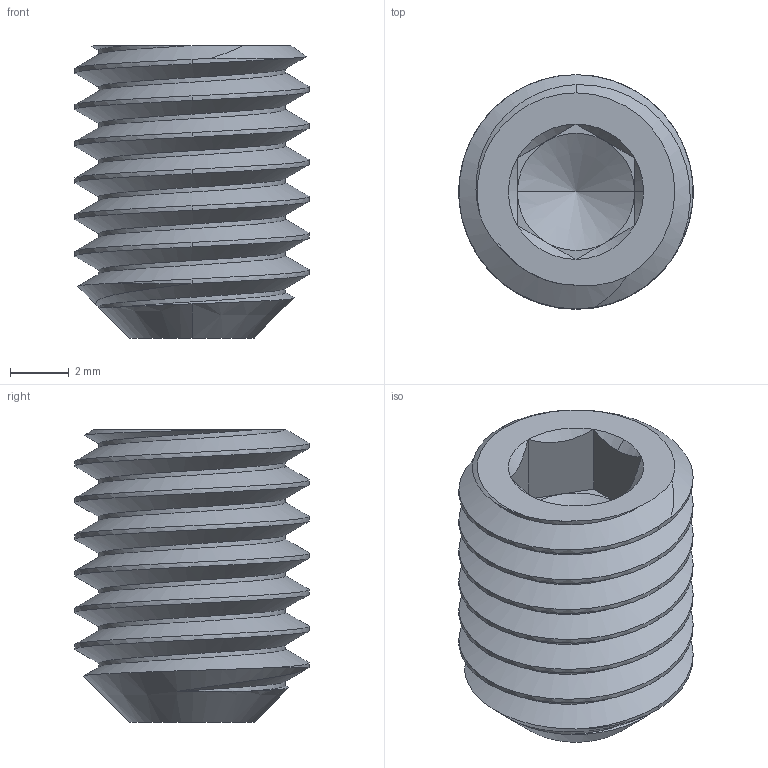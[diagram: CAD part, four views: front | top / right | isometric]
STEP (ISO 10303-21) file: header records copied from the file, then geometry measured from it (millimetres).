
FILE_DESCRIPTION (( 'STEP AP203' ), '1' );
FILE_NAME ('Cup-Point Set Screw 8x10.STEP', '2025-09-25T16:36:09', ( '' ), ( '' ), 'SwSTEP 2.0', 'SolidWorks 2024', '' );
FILE_SCHEMA (( 'CONFIG_CONTROL_DESIGN' ));
Length unit declared in the file: millimetre
Products named in the file (1): Cup-Point Set Screw 8x10
Bounding box: 7.99 x 8 x 10 mm (x, y, z)
Volume: 339.2 mm3; surface area: 460.6 mm2
Topology: 1 solids, 1 shells, 45 faces, 109 edges, 63 vertices
Faces by surface type: cone 15, cylinder 14, plane 13, bspline 3
Entity records: 2701 total; most frequent: CARTESIAN_POINT 1723, ORIENTED_EDGE 210, DIRECTION 163, EDGE_CURVE 105, VERTEX_POINT 63, AXIS2_PLACEMENT_3D 62, EDGE_LOOP 46, FACE_OUTER_BOUND 45
